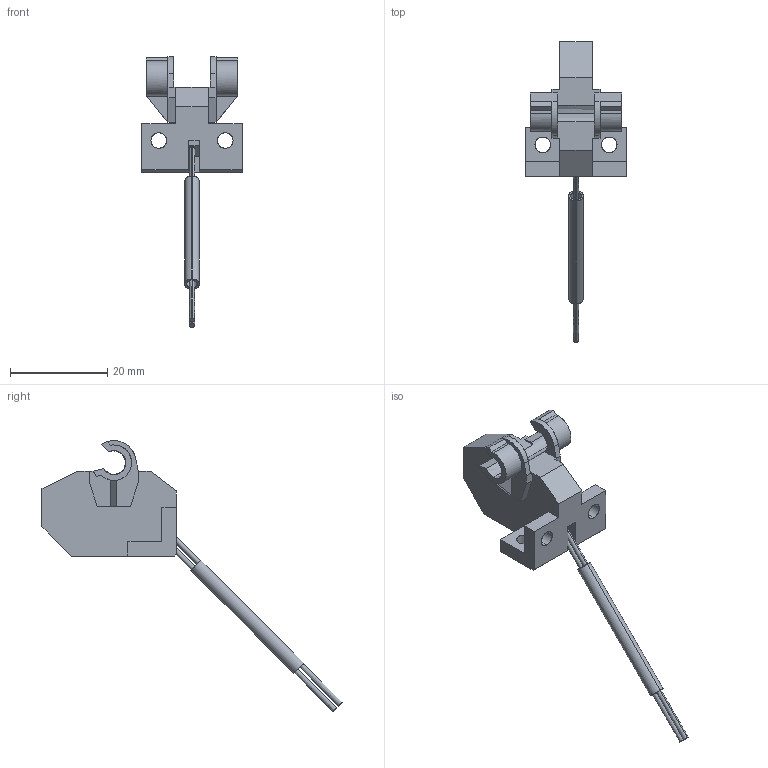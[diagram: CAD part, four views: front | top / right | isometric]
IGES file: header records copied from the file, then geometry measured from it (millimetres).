
Start section: SolidWorks IGES file using analytic representation for surfaces
Global section: file name: C:\catalog\fd-bef50.IGS; native system: SolidWorks 2017; preprocessor: SolidWorks 2017; author: 4056390; date: 200924.103543; units: millimetre
Bounding box: 20.7 x 61.79 x 55.79 mm (x, y, z)
Surface area: 3365.5 mm2 (no closed solid volume)
Topology: 0 solids, 0 shells, 101 faces, 1144 edges, 1144 vertices
Faces by surface type: bspline 69, revolution 32
